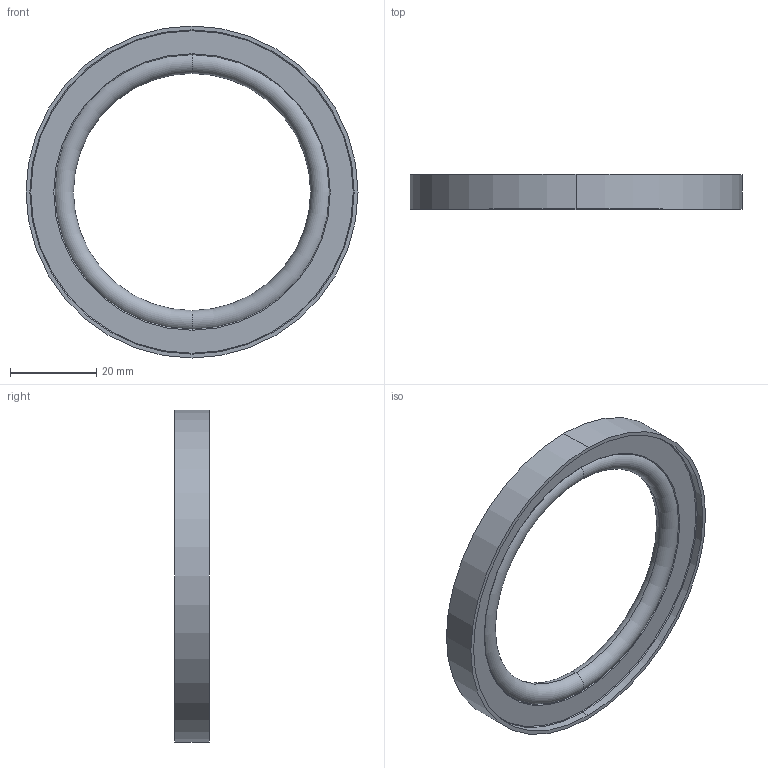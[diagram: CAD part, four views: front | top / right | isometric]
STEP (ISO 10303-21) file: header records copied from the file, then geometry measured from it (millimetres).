
FILE_DESCRIPTION (( 'STEP AP214' ), '1' );
FILE_NAME ('W3AZR50.STEP', '2019-11-14T06:17:21', ( '' ), ( '' ), 'SwSTEP 2.0', 'SolidWorks 2018', '' );
FILE_SCHEMA (( 'AUTOMOTIVE_DESIGN' ));
Length unit declared in the file: millimetre
Products named in the file (3): W3ZA50_Ring; W3AZR50
Assembly tree (2 placements, depth 2):
  W3AZR50
    W3AZR50
    W3ZA50_Ring
Bounding box: 77 x 8 x 77 mm (x, y, z)
Volume: 10012.2 mm3; surface area: 9578.8 mm2
Topology: 2 solids, 2 shells, 28 faces, 56 edges, 32 vertices
Faces by surface type: torus 18, cylinder 6, plane 4
Entity records: 860 total; most frequent: DIRECTION 172, CARTESIAN_POINT 121, ORIENTED_EDGE 112, AXIS2_PLACEMENT_3D 83, EDGE_CURVE 56, CIRCLE 50, EDGE_LOOP 32, VERTEX_POINT 32
